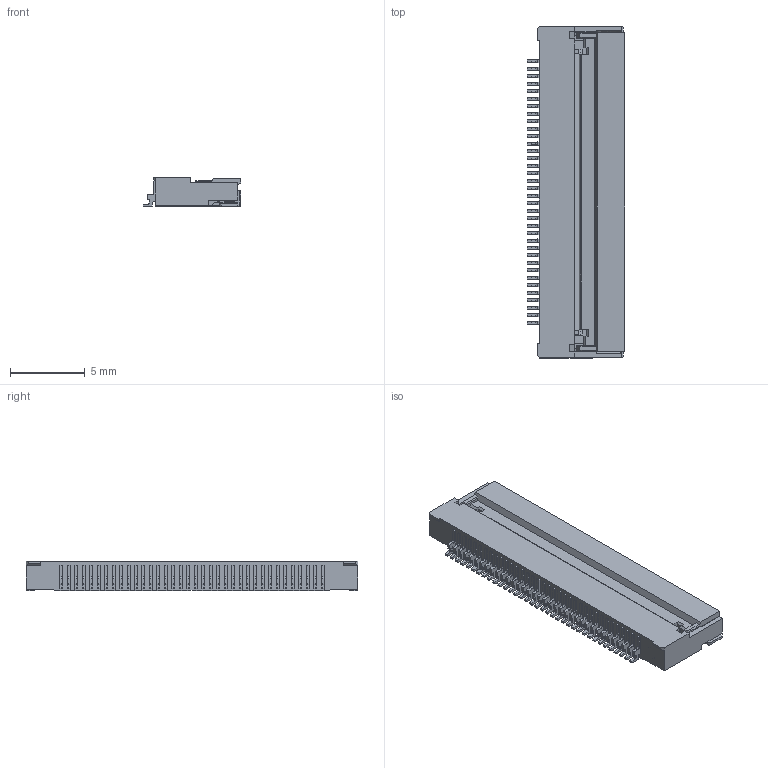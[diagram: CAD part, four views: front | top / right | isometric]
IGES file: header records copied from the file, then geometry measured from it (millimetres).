
Start section: SolidWorks IGES file using analytic representation for surfaces
Bounding box: 6.5 x 22.24 x 2 mm (x, y, z)
Surface area: 625.9 mm2 (no closed solid volume)
Topology: 0 solids, 0 shells, 901 faces, 6003 edges, 6003 vertices
Faces by surface type: bspline 659, revolution 242
